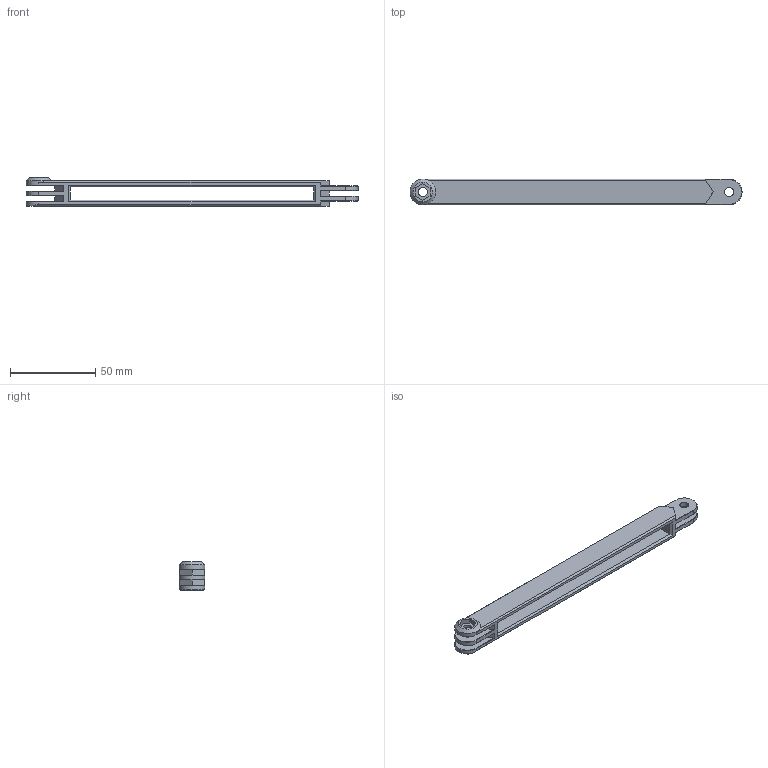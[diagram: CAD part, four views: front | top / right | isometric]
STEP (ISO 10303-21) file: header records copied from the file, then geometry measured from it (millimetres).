
FILE_DESCRIPTION(/* description */ ('STEP AP214'),/* implementation_level */ '2;1');
FILE_NAME(/* name */ '60a1429625d25912eeacad2e',/* time_stamp */ '2021-05-16T16:04:39+00:00',/* author */ (''),/* organization */ (''),/* preprocessor_version */ 'ST-DEVELOPER v18.1',/* originating_system */ ' ',/* authorisation */ ' ');
FILE_SCHEMA (('AUTOMOTIVE_DESIGN {1 0 10303 214 3 1 1}'));
Length unit declared in the file: metre
Products named in the file (1): Arm Straight
Bounding box: 195 x 15 x 16.8 mm (x, y, z)
Volume: 21265.6 mm3; surface area: 14530.4 mm2
Topology: 1 solids, 1 shells, 92 faces, 246 edges, 157 vertices
Faces by surface type: plane 72, cylinder 10, cone 10
Full cylindrical faces by diameter (mm): 5.3 x5
Entity records: 2789 total; most frequent: CARTESIAN_POINT 484, ORIENTED_EDGE 468, DIRECTION 453, EDGE_CURVE 234, LINE 197, VECTOR 197, VERTEX_POINT 151, AXIS2_PLACEMENT_3D 128
